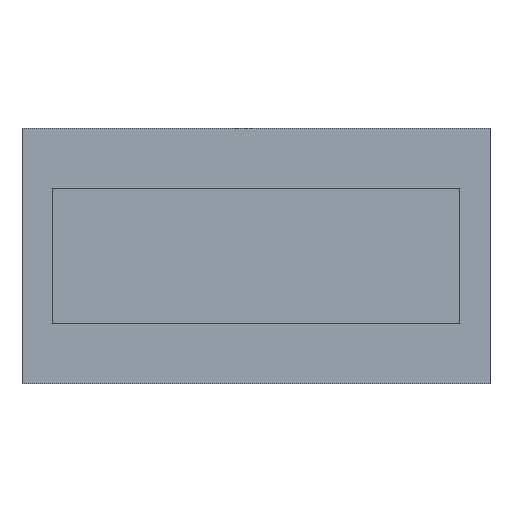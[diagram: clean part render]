
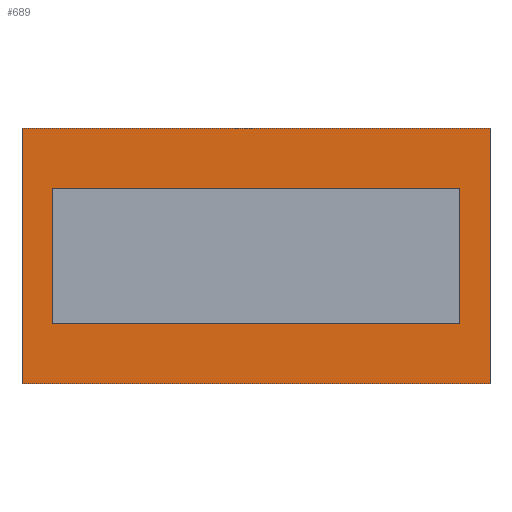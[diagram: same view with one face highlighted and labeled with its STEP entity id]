
A CAD part, top view. The second image highlights one B-rep face of the part: STEP entity #689.
In plain terms, the highlighted planar face has unit normal (0, 0, 1).
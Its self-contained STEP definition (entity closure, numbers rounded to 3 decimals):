
#12 = CARTESIAN_POINT ( 'NONE',  ( -2.395, 0.795, 0. ) ) ;
#27 = LINE ( 'NONE', #1408, #1313 ) ;
#30 = EDGE_CURVE ( 'NONE', #1162, #1587, #1147, .T. ) ;
#49 = LINE ( 'NONE', #66, #1385 ) ;
#59 = EDGE_CURVE ( 'NONE', #1587, #296, #27, .T. ) ;
#66 = CARTESIAN_POINT ( 'NONE',  ( 2.395, -0.795, 0. ) ) ;
#72 = DIRECTION ( 'NONE',  ( 0., 1., 0. ) ) ;
#73 = EDGE_CURVE ( 'NONE', #296, #1054, #885, .T. ) ;
#86 = CARTESIAN_POINT ( 'NONE',  ( -2.75, -1.5, 0. ) ) ;
#159 = EDGE_CURVE ( 'NONE', #535, #622, #1030, .T. ) ;
#185 = ORIENTED_EDGE ( 'NONE', *, *, #73, .F. ) ;
#208 = FACE_OUTER_BOUND ( 'NONE', #1251, .T. ) ;
#280 = CARTESIAN_POINT ( 'NONE',  ( 2.395, 0.795, 0. ) ) ;
#296 = VERTEX_POINT ( 'NONE', #1436 ) ;
#305 = CARTESIAN_POINT ( 'NONE',  ( -2.395, -0.795, 0. ) ) ;
#330 = VERTEX_POINT ( 'NONE', #573 ) ;
#332 = ORIENTED_EDGE ( 'NONE', *, *, #1040, .F. ) ;
#393 = DIRECTION ( 'NONE',  ( 1., 0., 0. ) ) ;
#402 = ORIENTED_EDGE ( 'NONE', *, *, #751, .F. ) ;
#414 = DIRECTION ( 'NONE',  ( -1., 0., 0. ) ) ;
#418 = VECTOR ( 'NONE', #1392, 1000. ) ;
#422 = DIRECTION ( 'NONE',  ( 1., 0., 0. ) ) ;
#439 = DIRECTION ( 'NONE',  ( 0., 1., 0. ) ) ;
#446 = FACE_BOUND ( 'NONE', #1022, .T. ) ;
#455 = VECTOR ( 'NONE', #414, 1000. ) ;
#464 = VECTOR ( 'NONE', #798, 1000. ) ;
#485 = VECTOR ( 'NONE', #422, 1000. ) ;
#496 = VECTOR ( 'NONE', #636, 1000. ) ;
#509 = CARTESIAN_POINT ( 'NONE',  ( 2.75, 1.5, 0. ) ) ;
#524 = CARTESIAN_POINT ( 'NONE',  ( 2.75, -1.5, 0. ) ) ;
#535 = VERTEX_POINT ( 'NONE', #611 ) ;
#541 = LINE ( 'NONE', #86, #833 ) ;
#573 = CARTESIAN_POINT ( 'NONE',  ( 2.75, -1.5, 0. ) ) ;
#603 = EDGE_CURVE ( 'NONE', #622, #330, #609, .T. ) ;
#609 = LINE ( 'NONE', #524, #418 ) ;
#611 = CARTESIAN_POINT ( 'NONE',  ( -2.75, 1.5, 0. ) ) ;
#622 = VERTEX_POINT ( 'NONE', #509 ) ;
#636 = DIRECTION ( 'NONE',  ( -1., 0., 0. ) ) ;
#652 = DIRECTION ( 'NONE',  ( 0., 0., 1. ) ) ;
#653 = CARTESIAN_POINT ( 'NONE',  ( 2.75, 1.5, 0. ) ) ;
#689 = ADVANCED_FACE ( 'NONE', ( #208, #446 ), #1284, .T. ) ;
#712 = CARTESIAN_POINT ( 'NONE',  ( 2.395, -0.795, 0. ) ) ;
#751 = EDGE_CURVE ( 'NONE', #330, #1543, #1102, .T. ) ;
#798 = DIRECTION ( 'NONE',  ( 1., 0., 0. ) ) ;
#827 = ORIENTED_EDGE ( 'NONE', *, *, #30, .F. ) ;
#833 = VECTOR ( 'NONE', #439, 1000. ) ;
#885 = LINE ( 'NONE', #305, #485 ) ;
#995 = ORIENTED_EDGE ( 'NONE', *, *, #603, .F. ) ;
#999 = EDGE_CURVE ( 'NONE', #1543, #535, #541, .T. ) ;
#1022 = EDGE_LOOP ( 'NONE', ( #332, #185, #1548, #827 ) ) ;
#1030 = LINE ( 'NONE', #653, #464 ) ;
#1040 = EDGE_CURVE ( 'NONE', #1054, #1162, #49, .T. ) ;
#1054 = VERTEX_POINT ( 'NONE', #712 ) ;
#1102 = LINE ( 'NONE', #1419, #455 ) ;
#1131 = CARTESIAN_POINT ( 'NONE',  ( -2.395, 0.795, 0. ) ) ;
#1147 = LINE ( 'NONE', #1131, #496 ) ;
#1162 = VERTEX_POINT ( 'NONE', #280 ) ;
#1219 = ORIENTED_EDGE ( 'NONE', *, *, #159, .F. ) ;
#1247 = CARTESIAN_POINT ( 'NONE',  ( -2.75, -1.5, 0. ) ) ;
#1251 = EDGE_LOOP ( 'NONE', ( #1475, #402, #995, #1219 ) ) ;
#1268 = AXIS2_PLACEMENT_3D ( 'NONE', #1413, #652, #393 ) ;
#1284 = PLANE ( 'NONE',  #1268 ) ;
#1296 = DIRECTION ( 'NONE',  ( 0., -1., 0. ) ) ;
#1313 = VECTOR ( 'NONE', #1296, 1000. ) ;
#1385 = VECTOR ( 'NONE', #72, 1000. ) ;
#1392 = DIRECTION ( 'NONE',  ( 0., -1., 0. ) ) ;
#1408 = CARTESIAN_POINT ( 'NONE',  ( -2.395, -0.795, 0. ) ) ;
#1413 = CARTESIAN_POINT ( 'NONE',  ( 0., 0., 0. ) ) ;
#1419 = CARTESIAN_POINT ( 'NONE',  ( 2.75, -1.5, 0. ) ) ;
#1436 = CARTESIAN_POINT ( 'NONE',  ( -2.395, -0.795, 0. ) ) ;
#1475 = ORIENTED_EDGE ( 'NONE', *, *, #999, .F. ) ;
#1543 = VERTEX_POINT ( 'NONE', #1247 ) ;
#1548 = ORIENTED_EDGE ( 'NONE', *, *, #59, .F. ) ;
#1587 = VERTEX_POINT ( 'NONE', #12 ) ;
